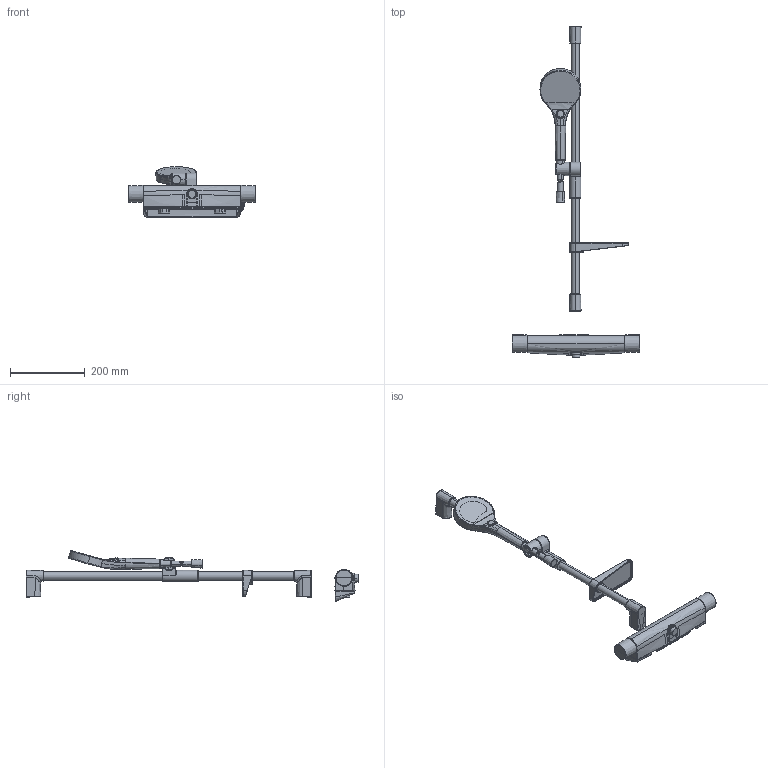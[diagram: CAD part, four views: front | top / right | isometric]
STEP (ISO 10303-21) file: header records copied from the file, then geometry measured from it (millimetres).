
FILE_DESCRIPTION (( 'STEP AP203' ), '1' );
FILE_NAME ('7169N(2023).STEP', '2025-09-17T07:43:50', ( '' ), ( '' ), 'SwSTEP 2.0', 'SolidWorks 2024', '' );
FILE_SCHEMA (( 'CONFIG_CONTROL_DESIGN' ));
Length unit declared in the file: millimetre
Products named in the file (1): 7169N(2023)
Bounding box: 342.5 x 890.21 x 135.88 mm (x, y, z)
Volume: 2398928.2 mm3; surface area: 408969.4 mm2
Topology: 25 solids, 25 shells, 1088 faces, 2631 edges, 1564 vertices
Faces by surface type: bspline 669, cylinder 129, plane 121, cone 102, torus 49, sphere 18
Entity records: 88180 total; most frequent: CARTESIAN_POINT 68342, ORIENTED_EDGE 5170, EDGE_CURVE 2585, DIRECTION 2513, VERTEX_POINT 1566, B_SPLINE_CURVE_WITH_KNOTS 1459, EDGE_LOOP 1111, ADVANCED_FACE 1088
